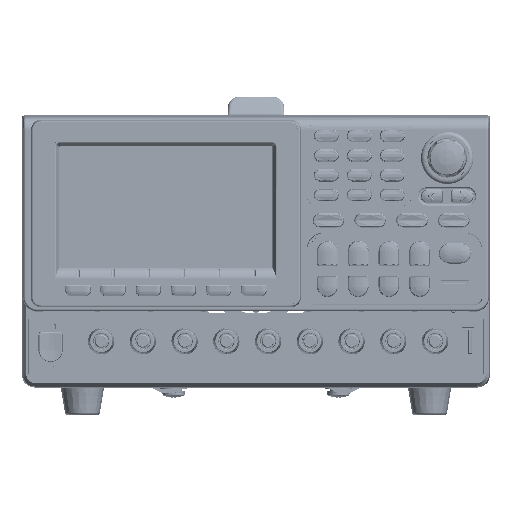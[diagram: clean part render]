
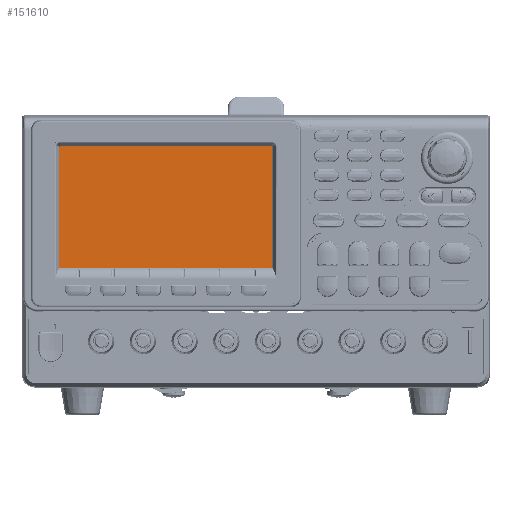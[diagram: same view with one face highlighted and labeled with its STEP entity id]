
A CAD part, top view. The second image highlights one B-rep face of the part: STEP entity #151610.
In plain terms, the highlighted planar face has unit normal (0, 0, 1).
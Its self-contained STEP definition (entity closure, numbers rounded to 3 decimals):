
#151495=DIRECTION('',(0.,1.,0.));
#151496=VECTOR('',#151495,63.);
#151497=CARTESIAN_POINT('',(-52.,-31.5,1.));
#151498=LINE('',#151497,#151496);
#151499=DIRECTION('',(1.,0.,0.));
#151500=VECTOR('',#151499,104.);
#151501=CARTESIAN_POINT('',(-52.,31.5,1.));
#151502=LINE('',#151501,#151500);
#151503=DIRECTION('',(0.,-1.,0.));
#151504=VECTOR('',#151503,63.);
#151505=CARTESIAN_POINT('',(52.,31.5,1.));
#151506=LINE('',#151505,#151504);
#151507=DIRECTION('',(-1.,0.,0.));
#151508=VECTOR('',#151507,104.);
#151509=CARTESIAN_POINT('',(52.,-31.5,1.));
#151510=LINE('',#151509,#151508);
#151519=CARTESIAN_POINT('',(-52.,31.5,1.));
#151520=VERTEX_POINT('',#151519);
#151521=CARTESIAN_POINT('',(-52.,-31.5,1.));
#151522=VERTEX_POINT('',#151521);
#151523=CARTESIAN_POINT('',(52.,31.5,1.));
#151524=VERTEX_POINT('',#151523);
#151525=CARTESIAN_POINT('',(52.,-31.5,1.));
#151526=VERTEX_POINT('',#151525);
#151599=CARTESIAN_POINT('',(0.,0.,1.));
#151600=DIRECTION('',(0.,0.,1.));
#151601=DIRECTION('',(1.,0.,0.));
#151602=AXIS2_PLACEMENT_3D('',#151599,#151600,#151601);
#151603=PLANE('',#151602);
#151604=ORIENTED_EDGE('',*,*,#151551,.T.);
#151605=ORIENTED_EDGE('',*,*,#151566,.T.);
#151606=ORIENTED_EDGE('',*,*,#151580,.T.);
#151607=ORIENTED_EDGE('',*,*,#151593,.T.);
#151608=EDGE_LOOP('',(#151604,#151605,#151606,#151607));
#151609=FACE_OUTER_BOUND('',#151608,.F.);
#151610=ADVANCED_FACE('',(#151609),#151603,.T.);
#151551=EDGE_CURVE('',#151522,#151520,#151498,.T.);
#151566=EDGE_CURVE('',#151520,#151524,#151502,.T.);
#151580=EDGE_CURVE('',#151524,#151526,#151506,.T.);
#151593=EDGE_CURVE('',#151526,#151522,#151510,.T.);
